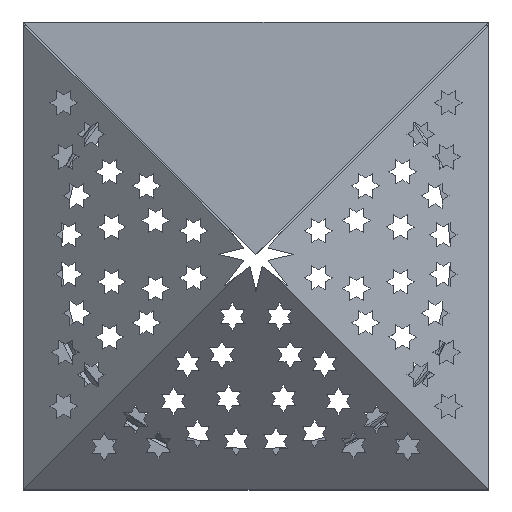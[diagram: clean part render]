
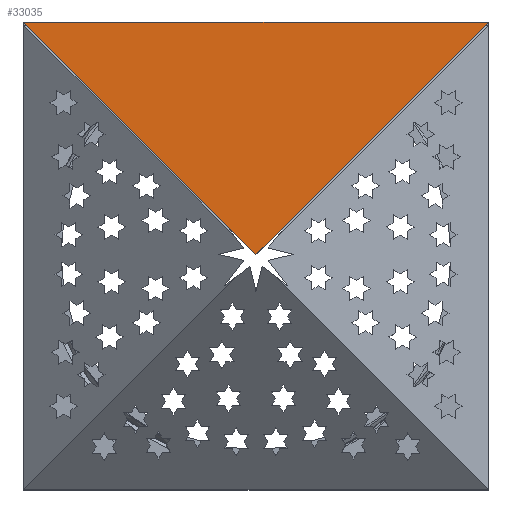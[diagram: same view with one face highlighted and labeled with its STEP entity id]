
A CAD part, top view. The second image highlights one B-rep face of the part: STEP entity #33035.
In plain terms, the highlighted planar face has unit normal (0, 0, 1).
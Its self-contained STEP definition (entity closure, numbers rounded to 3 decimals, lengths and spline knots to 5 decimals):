
#1583=PLANE('',#34850);
#9858=ORIENTED_EDGE('',*,*,#15503,.T.);
#9859=ORIENTED_EDGE('',*,*,#15513,.T.);
#9860=ORIENTED_EDGE('',*,*,#15514,.F.);
#15503=EDGE_CURVE('',#18957,#18956,#22987,.T.);
#15513=EDGE_CURVE('',#18956,#18962,#22997,.T.);
#15514=EDGE_CURVE('',#18957,#18962,#22998,.T.);
#18956=VERTEX_POINT('',#55671);
#18957=VERTEX_POINT('',#55673);
#18962=VERTEX_POINT('',#55691);
#22987=LINE('',#55672,#27326);
#22997=LINE('',#55692,#27336);
#22998=LINE('',#55694,#27337);
#27326=VECTOR('',#41654,1.);
#27336=VECTOR('',#41672,1.);
#27337=VECTOR('',#41675,1.);
#29461=EDGE_LOOP('',(#9858,#9859,#9860));
#31345=FACE_BOUND('',#29461,.T.);
#33035=ADVANCED_FACE('',(#31345),#1583,.T.);
#34850=AXIS2_PLACEMENT_3D('',#55693,#41673,#41674);
#41654=DIRECTION('',(0.707,0.707,0.));
#41672=DIRECTION('',(-1.,0.,0.));
#41673=DIRECTION('',(0.,0.,1.));
#41674=DIRECTION('',(1.,0.,0.));
#41675=DIRECTION('',(-0.707,0.707,0.));
#55671=CARTESIAN_POINT('',(0.05,0.05,0.051));
#55672=CARTESIAN_POINT('',(0.0284,0.0284,0.051));
#55673=CARTESIAN_POINT('',(0.,0.,0.051));
#55691=CARTESIAN_POINT('',(-0.05,0.05,0.051));
#55692=CARTESIAN_POINT('',(0.025,0.05,0.051));
#55693=CARTESIAN_POINT('',(0.,0.,0.051));
#55694=CARTESIAN_POINT('',(-0.0284,0.0284,0.051));
